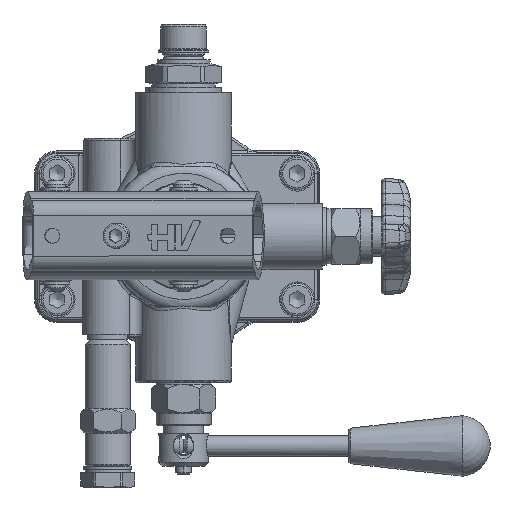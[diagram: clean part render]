
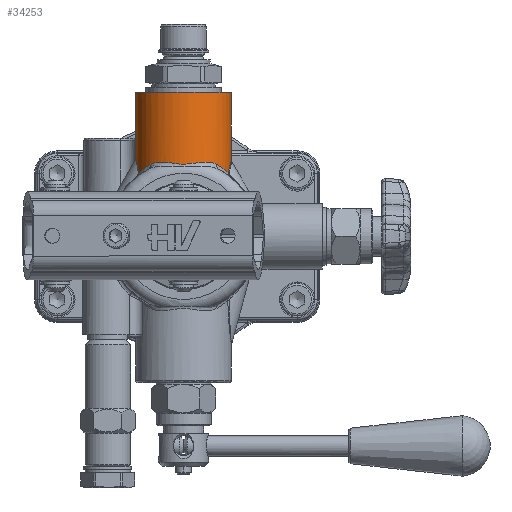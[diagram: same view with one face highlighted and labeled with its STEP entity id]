
A CAD part, top view. The second image highlights one B-rep face of the part: STEP entity #34253.
In plain terms, the highlighted cylindrical face has radius 19 mm (diameter 38 mm), a full revolution.
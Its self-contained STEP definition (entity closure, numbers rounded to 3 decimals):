
#31781=CARTESIAN_POINT('',(-10.797,28.425,52.571));
#31782=VERTEX_POINT('',#31781);
#31808=CARTESIAN_POINT('',(15.797,28.425,52.571));
#31809=VERTEX_POINT('',#31808);
#31817=CARTESIAN_POINT('',(15.797,28.425,52.571));
#31818=CARTESIAN_POINT('',(14.852,28.965,53.498));
#31819=CARTESIAN_POINT('',(12.63,29.567,55.267));
#31820=CARTESIAN_POINT('',(9.399,29.374,56.8));
#31821=CARTESIAN_POINT('',(6.694,28.984,57.571));
#31822=CARTESIAN_POINT('',(4.444,28.666,57.95));
#31823=CARTESIAN_POINT('',(2.319,28.562,58.04));
#31824=CARTESIAN_POINT('',(-0.497,28.771,57.842));
#31825=CARTESIAN_POINT('',(-3.757,29.341,57.106));
#31826=CARTESIAN_POINT('',(-7.303,29.545,55.421));
#31827=CARTESIAN_POINT('',(-9.572,29.044,53.724));
#31828=CARTESIAN_POINT('',(-10.561,28.56,52.803));
#31829=CARTESIAN_POINT('',(-10.797,28.425,52.571));
#31830=B_SPLINE_CURVE_WITH_KNOTS('',3,(#31817,#31818,#31819,#31820,#31821,#31822,#31823,#31824,#31825,#31826,#31827,#31828,#31829),.UNSPECIFIED.,.F.,.U.,(4,1,1,1,1,1,1,1,1,1,4),(-3.274,-2.806,-2.339,-2.105,-1.871,-1.579,-1.403,-0.935,-0.468,-0.117,0.),.UNSPECIFIED.);
#31831=EDGE_CURVE('',#31809,#31782,#31830,.T.);
#32869=CARTESIAN_POINT('',(-8.49,39.,23.501));
#32870=VERTEX_POINT('',#32869);
#32887=CARTESIAN_POINT('',(-15.885,39.,34.203));
#32888=VERTEX_POINT('',#32887);
#32896=CARTESIAN_POINT('',(2.5,39.,39.0));
#32897=DIRECTION('',(0.0,1.0,0.0));
#32898=DIRECTION('',(1.0,0.0,0.0));
#32899=AXIS2_PLACEMENT_3D('',#32896,#32897,#32898);
#32900=CIRCLE('',#32899,19.);
#32901=EDGE_CURVE('',#32870,#32888,#32900,.T.);
#32931=CARTESIAN_POINT('',(-5.958,38.,21.986));
#32932=VERTEX_POINT('',#32931);
#32940=CARTESIAN_POINT('',(-5.958,30.604,21.986));
#32941=VERTEX_POINT('',#32940);
#32942=CARTESIAN_POINT('',(-5.958,38.,21.986));
#32943=DIRECTION('',(0.0,-1.0,0.0));
#32944=VECTOR('',#32943,7.396);
#32945=LINE('',#32942,#32944);
#32946=EDGE_CURVE('',#32932,#32941,#32945,.T.);
#32967=CARTESIAN_POINT('',(-16.406,38.,37.108));
#32968=VERTEX_POINT('',#32967);
#32969=CARTESIAN_POINT('',(-15.885,39.,34.203));
#32970=CARTESIAN_POINT('',(-15.927,39.,34.367));
#32971=CARTESIAN_POINT('',(-15.975,38.984,34.557));
#32972=CARTESIAN_POINT('',(-16.196,38.794,35.528));
#32973=CARTESIAN_POINT('',(-16.324,38.408,36.301));
#32974=CARTESIAN_POINT('',(-16.405,38.003,37.103));
#32975=CARTESIAN_POINT('',(-16.405,38.001,37.105));
#32976=CARTESIAN_POINT('',(-16.406,38.,37.108));
#32977=B_SPLINE_CURVE_WITH_KNOTS('',3,(#32969,#32970,#32971,#32972,#32973,#32974,#32975,#32976),.UNSPECIFIED.,.F.,.U.,(4,2,2,4),(0.777,0.821,0.967,0.968),.UNSPECIFIED.);
#32978=EDGE_CURVE('',#32968,#32888,#32977,.F.);
#33005=CARTESIAN_POINT('',(-5.958,38.,21.986));
#33006=CARTESIAN_POINT('',(-5.96,38.001,21.988));
#33007=CARTESIAN_POINT('',(-5.963,38.003,21.989));
#33008=CARTESIAN_POINT('',(-6.684,38.408,22.348));
#33009=CARTESIAN_POINT('',(-7.361,38.794,22.741));
#33010=CARTESIAN_POINT('',(-8.191,38.984,23.292));
#33011=CARTESIAN_POINT('',(-8.353,39.,23.404));
#33012=CARTESIAN_POINT('',(-8.49,39.,23.501));
#33013=B_SPLINE_CURVE_WITH_KNOTS('',3,(#33005,#33006,#33007,#33008,#33009,#33010,#33011,#33012),.UNSPECIFIED.,.F.,.U.,(4,2,2,4),(-0.001,0.0,0.269,0.35),.UNSPECIFIED.);
#33014=EDGE_CURVE('',#32870,#32932,#33013,.F.);
#33507=CARTESIAN_POINT('',(-15.189,25.333,45.935));
#33508=VERTEX_POINT('',#33507);
#33525=CARTESIAN_POINT('',(-10.797,28.425,52.571));
#33526=CARTESIAN_POINT('',(-12.683,27.348,50.724));
#33527=CARTESIAN_POINT('',(-14.196,26.179,48.467));
#33528=CARTESIAN_POINT('',(-15.189,25.333,45.935));
#33529=B_SPLINE_CURVE_WITH_KNOTS('',3,(#33525,#33526,#33527,#33528),.UNSPECIFIED.,.F.,.U.,(4,4),(0.0,0.933),.UNSPECIFIED.);
#33530=EDGE_CURVE('',#31782,#33508,#33529,.T.);
#33988=CARTESIAN_POINT('',(20.237,25.292,45.812));
#33989=VERTEX_POINT('',#33988);
#34001=CARTESIAN_POINT('',(20.237,25.292,45.813));
#34002=CARTESIAN_POINT('',(19.242,26.144,48.403));
#34003=CARTESIAN_POINT('',(17.716,27.329,50.691));
#34004=CARTESIAN_POINT('',(15.797,28.425,52.571));
#34005=B_SPLINE_CURVE_WITH_KNOTS('',3,(#34001,#34002,#34003,#34004),.UNSPECIFIED.,.F.,.U.,(4,4),(9.304,10.254),.UNSPECIFIED.);
#34006=EDGE_CURVE('',#33989,#31809,#34005,.T.);
#34065=CARTESIAN_POINT('',(20.237,25.292,32.188));
#34066=VERTEX_POINT('',#34065);
#34078=CARTESIAN_POINT('',(-5.958,30.604,21.986));
#34079=CARTESIAN_POINT('',(-5.196,30.862,21.608));
#34080=CARTESIAN_POINT('',(-2.89,31.531,20.647));
#34081=CARTESIAN_POINT('',(1.286,32.137,19.81));
#34082=CARTESIAN_POINT('',(8.094,31.789,20.296));
#34083=CARTESIAN_POINT('',(14.065,29.597,23.341));
#34084=CARTESIAN_POINT('',(18.216,26.944,28.001));
#34085=CARTESIAN_POINT('',(19.69,25.76,30.766));
#34086=CARTESIAN_POINT('',(20.237,25.292,32.188));
#34087=B_SPLINE_CURVE_WITH_KNOTS('',3,(#34078,#34079,#34080,#34081,#34082,#34083,#34084,#34085,#34086),.UNSPECIFIED.,.F.,.U.,(4,1,1,1,1,1,4),(4.146,4.437,4.994,5.552,6.666,7.223,7.746),.UNSPECIFIED.);
#34088=EDGE_CURVE('',#32941,#34066,#34087,.T.);
#34198=CARTESIAN_POINT('',(2.5,0.0,39.0));
#34199=DIRECTION('',(0.0,1.0,0.0));
#34200=DIRECTION('',(1.0,0.0,0.0));
#34201=AXIS2_PLACEMENT_3D('',#34198,#34199,#34200);
#34202=CYLINDRICAL_SURFACE('',#34201,19.);
#34203=CARTESIAN_POINT('',(20.237,25.292,32.188));
#34204=CARTESIAN_POINT('',(20.379,26.061,32.558));
#34205=CARTESIAN_POINT('',(20.862,28.254,33.881));
#34206=CARTESIAN_POINT('',(21.514,30.155,36.86));
#34207=CARTESIAN_POINT('',(21.513,30.15,40.27));
#34208=CARTESIAN_POINT('',(21.192,29.22,42.634));
#34209=CARTESIAN_POINT('',(20.702,27.526,44.537));
#34210=CARTESIAN_POINT('',(20.379,26.061,45.442));
#34211=CARTESIAN_POINT('',(20.237,25.292,45.812));
#34212=B_SPLINE_CURVE_WITH_KNOTS('',3,(#34203,#34204,#34205,#34206,#34207,#34208,#34209,#34210,#34211),.UNSPECIFIED.,.F.,.U.,(4,1,1,1,1,1,4),(-1.838,-1.576,-1.05,-0.788,-0.525,-0.263,0.0),.UNSPECIFIED.);
#34213=EDGE_CURVE('',#34066,#33989,#34212,.T.);
#34214=ORIENTED_EDGE('',*,*,#34213,.F.);
#34215=ORIENTED_EDGE('',*,*,#34088,.F.);
#34216=ORIENTED_EDGE('',*,*,#32946,.F.);
#34217=ORIENTED_EDGE('',*,*,#33014,.F.);
#34218=ORIENTED_EDGE('',*,*,#32901,.T.);
#34219=ORIENTED_EDGE('',*,*,#32978,.F.);
#34220=CARTESIAN_POINT('',(-16.406,30.428,37.108));
#34221=VERTEX_POINT('',#34220);
#34222=CARTESIAN_POINT('',(-16.406,38.,37.108));
#34223=DIRECTION('',(0.0,-1.0,0.0));
#34224=VECTOR('',#34223,7.572);
#34225=LINE('',#34222,#34224);
#34226=EDGE_CURVE('',#32968,#34221,#34225,.T.);
#34227=ORIENTED_EDGE('',*,*,#34226,.T.);
#34228=CARTESIAN_POINT('',(-15.189,25.333,45.935));
#34229=CARTESIAN_POINT('',(-15.429,26.833,45.322));
#34230=CARTESIAN_POINT('',(-15.98,29.164,43.817));
#34231=CARTESIAN_POINT('',(-16.549,30.851,40.344));
#34232=CARTESIAN_POINT('',(-16.508,30.738,38.128));
#34233=CARTESIAN_POINT('',(-16.406,30.428,37.108));
#34234=B_SPLINE_CURVE_WITH_KNOTS('',3,(#34228,#34229,#34230,#34231,#34232,#34233),.UNSPECIFIED.,.F.,.U.,(4,1,1,4),(-1.152,-0.658,-0.329,0.0),.UNSPECIFIED.);
#34235=EDGE_CURVE('',#33508,#34221,#34234,.T.);
#34236=ORIENTED_EDGE('',*,*,#34235,.F.);
#34237=ORIENTED_EDGE('',*,*,#33530,.F.);
#34238=ORIENTED_EDGE('',*,*,#31831,.F.);
#34239=ORIENTED_EDGE('',*,*,#34006,.F.);
#34240=EDGE_LOOP('',(#34214,#34215,#34216,#34217,#34218,#34219,#34227,#34236,#34237,#34238,#34239));
#34241=FACE_OUTER_BOUND('',#34240,.T.);
#34242=CARTESIAN_POINT('',(-16.5,57.,39.));
#34243=VERTEX_POINT('',#34242);
#34244=CARTESIAN_POINT('',(2.5,57.,39.0));
#34245=DIRECTION('',(0.0,1.0,0.0));
#34246=DIRECTION('',(1.0,0.0,0.0));
#34247=AXIS2_PLACEMENT_3D('',#34244,#34245,#34246);
#34248=CIRCLE('',#34247,19.);
#34249=EDGE_CURVE('',#34243,#34243,#34248,.T.);
#34250=ORIENTED_EDGE('',*,*,#34249,.F.);
#34251=EDGE_LOOP('',(#34250));
#34252=FACE_BOUND('',#34251,.T.);
#34253=ADVANCED_FACE('',(#34241,#34252),#34202,.T.);
